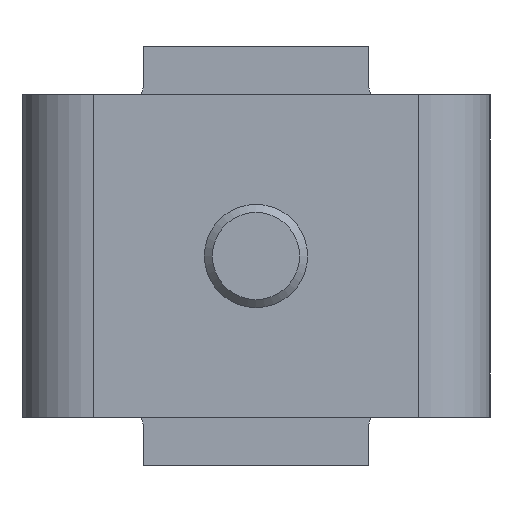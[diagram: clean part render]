
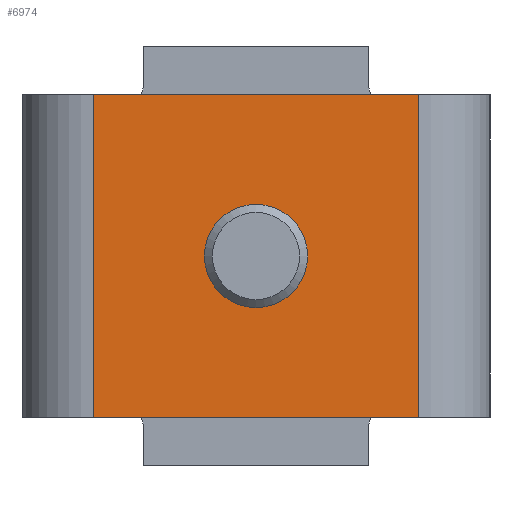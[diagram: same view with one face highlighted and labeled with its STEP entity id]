
A CAD part, front view. The second image highlights one B-rep face of the part: STEP entity #6974.
In plain terms, the highlighted planar face has unit normal (0, -1, 0).
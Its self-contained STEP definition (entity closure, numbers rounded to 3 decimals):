
#121 = ORIENTED_EDGE ( 'NONE', *, *, #1661, .T. ) ;
#206 = EDGE_CURVE ( 'NONE', #2403, #6289, #3273, .T. ) ;
#217 = VECTOR ( 'NONE', #10592, 1000. ) ;
#372 = DIRECTION ( 'NONE',  ( -1., 0., 0. ) ) ;
#563 = DIRECTION ( 'NONE',  ( -1., 0., 0. ) ) ;
#943 = CARTESIAN_POINT ( 'NONE',  ( -5.05, 0., 5. ) ) ;
#1176 = LINE ( 'NONE', #7730, #3407 ) ;
#1242 = ORIENTED_EDGE ( 'NONE', *, *, #3829, .T. ) ;
#1250 = CARTESIAN_POINT ( 'NONE',  ( -7.25, 0., -5. ) ) ;
#1256 = CARTESIAN_POINT ( 'NONE',  ( 0., 0., -1.6 ) ) ;
#1495 = ORIENTED_EDGE ( 'NONE', *, *, #6883, .T. ) ;
#1544 = VERTEX_POINT ( 'NONE', #5675 ) ;
#1661 = EDGE_CURVE ( 'NONE', #3553, #3553, #8875, .T. ) ;
#1743 = CARTESIAN_POINT ( 'NONE',  ( 5.05, 0., -5. ) ) ;
#2403 = VERTEX_POINT ( 'NONE', #7652 ) ;
#2904 = LINE ( 'NONE', #1250, #7782 ) ;
#3196 = VECTOR ( 'NONE', #4668, 1000. ) ;
#3273 = LINE ( 'NONE', #6560, #3196 ) ;
#3407 = VECTOR ( 'NONE', #372, 1000. ) ;
#3553 = VERTEX_POINT ( 'NONE', #1256 ) ;
#3558 = AXIS2_PLACEMENT_3D ( 'NONE', #5364, #9668, #8844 ) ;
#3575 = ORIENTED_EDGE ( 'NONE', *, *, #206, .F. ) ;
#3829 = EDGE_CURVE ( 'NONE', #1544, #4330, #8203, .T. ) ;
#4330 = VERTEX_POINT ( 'NONE', #5213 ) ;
#4668 = DIRECTION ( 'NONE',  ( 0., 0., -1. ) ) ;
#4786 = EDGE_LOOP ( 'NONE', ( #9646, #3575, #1495, #1242 ) ) ;
#5213 = CARTESIAN_POINT ( 'NONE',  ( -5.05, 0., -5. ) ) ;
#5293 = DIRECTION ( 'NONE',  ( 0., 1., 0. ) ) ;
#5364 = CARTESIAN_POINT ( 'NONE',  ( -7.25, 0., 5. ) ) ;
#5675 = CARTESIAN_POINT ( 'NONE',  ( -5.05, 0., 5. ) ) ;
#6156 = FACE_OUTER_BOUND ( 'NONE', #4786, .T. ) ;
#6289 = VERTEX_POINT ( 'NONE', #1743 ) ;
#6560 = CARTESIAN_POINT ( 'NONE',  ( 5.05, 0., 5. ) ) ;
#6883 = EDGE_CURVE ( 'NONE', #2403, #1544, #1176, .T. ) ;
#6974 = ADVANCED_FACE ( 'NONE', ( #8731, #6156 ), #7198, .T. ) ;
#7198 = PLANE ( 'NONE',  #3558 ) ;
#7652 = CARTESIAN_POINT ( 'NONE',  ( 5.05, 0., 5. ) ) ;
#7730 = CARTESIAN_POINT ( 'NONE',  ( -7.25, 0., 5. ) ) ;
#7731 = EDGE_LOOP ( 'NONE', ( #121 ) ) ;
#7782 = VECTOR ( 'NONE', #563, 1000. ) ;
#8203 = LINE ( 'NONE', #943, #217 ) ;
#8515 = DIRECTION ( 'NONE',  ( 0., 0., -1. ) ) ;
#8693 = AXIS2_PLACEMENT_3D ( 'NONE', #9422, #5293, #8515 ) ;
#8731 = FACE_BOUND ( 'NONE', #7731, .T. ) ;
#8844 = DIRECTION ( 'NONE',  ( 0., 0., -1. ) ) ;
#8875 = CIRCLE ( 'NONE', #8693, 1.6 ) ;
#9422 = CARTESIAN_POINT ( 'NONE',  ( 0., 0., 0. ) ) ;
#9646 = ORIENTED_EDGE ( 'NONE', *, *, #9915, .F. ) ;
#9668 = DIRECTION ( 'NONE',  ( 0., -1., 0. ) ) ;
#9915 = EDGE_CURVE ( 'NONE', #6289, #4330, #2904, .T. ) ;
#10592 = DIRECTION ( 'NONE',  ( 0., 0., -1. ) ) ;
